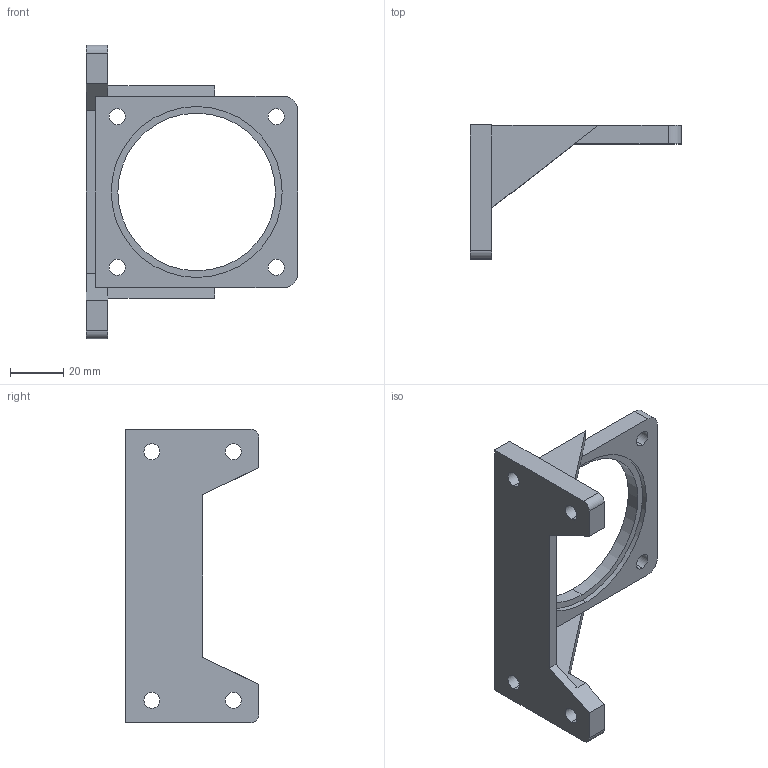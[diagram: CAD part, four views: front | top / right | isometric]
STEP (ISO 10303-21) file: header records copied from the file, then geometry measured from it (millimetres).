
FILE_DESCRIPTION (( 'STEP AP203' ), '1' );
FILE_NAME ('M3假蚾盓殤.STEP', '2018-12-10T06:10:27', ( 'china' ), ( 'china' ), 'SwSTEP 2.0', 'SolidWorks 2014', '' );
FILE_SCHEMA (( 'CONFIG_CONTROL_DESIGN' ));
Length unit declared in the file: millimetre
Products named in the file (1): M3假蚾盓殤
Bounding box: 79 x 50 x 110 mm (x, y, z)
Volume: 43322.2 mm3; surface area: 20594.7 mm2
Topology: 1 solids, 1 shells, 47 faces, 130 edges, 86 vertices
Faces by surface type: cylinder 24, plane 23
Entity records: 1629 total; most frequent: DIRECTION 274, CARTESIAN_POINT 264, ORIENTED_EDGE 260, EDGE_CURVE 130, AXIS2_PLACEMENT_3D 96, VERTEX_POINT 86, LINE 82, VECTOR 82
